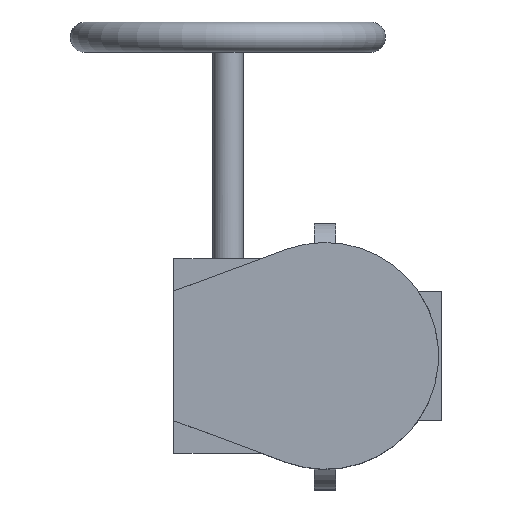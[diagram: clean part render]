
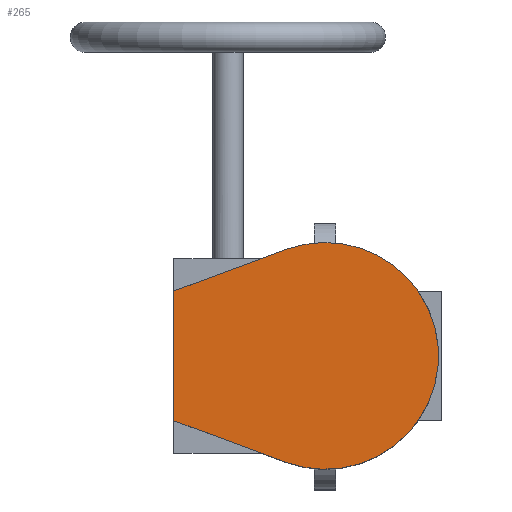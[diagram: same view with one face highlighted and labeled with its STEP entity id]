
A CAD part, top view. The second image highlights one B-rep face of the part: STEP entity #265.
In plain terms, the highlighted planar face has unit normal (0, 0, 1).
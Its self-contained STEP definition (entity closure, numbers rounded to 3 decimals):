
#265=ADVANCED_FACE('',(#6066),#6068,.T.);
#6066=FACE_BOUND('',#6067,.T.);
#6067=EDGE_LOOP('',(#10660,#10661,#10662,#10663));
#6068=PLANE('',#6069);
#6069=AXIS2_PLACEMENT_3D('',#6070,#6071,#6072);
#6070=CARTESIAN_POINT('',(0.,0.,205.));
#6071=DIRECTION('',(0.,0.,1.));
#6072=DIRECTION('',(0.,1.,0.));
#10660=ORIENTED_EDGE('',*,*,#14288,.T.);
#10661=ORIENTED_EDGE('',*,*,#14284,.T.);
#10662=ORIENTED_EDGE('',*,*,#14277,.T.);
#10663=ORIENTED_EDGE('',*,*,#14272,.T.);
#14272=EDGE_CURVE('',#16169,#16167,#16170,.T.);
#14277=EDGE_CURVE('',#16177,#16169,#16178,.T.);
#14284=EDGE_CURVE('',#16190,#16177,#16191,.T.);
#14288=EDGE_CURVE('',#16167,#16190,#16196,.T.);
#16167=VERTEX_POINT('',#19325);
#16169=VERTEX_POINT('',#19329);
#16170=LINE('',#19330,#19331);
#16177=VERTEX_POINT('',#19347);
#16178=LINE('',#19348,#19349);
#16190=VERTEX_POINT('',#19374);
#16191=LINE('',#19375,#19376);
#16196=CIRCLE('',#19388,52.5);
#19325=CARTESIAN_POINT('',(-18.284,-49.213,205.));
#19329=CARTESIAN_POINT('',(-70.,-30.,205.));
#19330=CARTESIAN_POINT('',(-70.,-30.,205.));
#19331=VECTOR('',#19332,1.);
#19332=DIRECTION('',(0.937,-0.348,0.));
#19347=CARTESIAN_POINT('',(-70.,30.,205.));
#19348=CARTESIAN_POINT('',(-70.,30.,205.));
#19349=VECTOR('',#19350,1.);
#19350=DIRECTION('',(0.,-1.,0.));
#19374=CARTESIAN_POINT('',(-18.284,49.213,205.));
#19375=CARTESIAN_POINT('',(-18.284,49.213,205.));
#19376=VECTOR('',#19377,1.);
#19377=DIRECTION('',(-0.937,-0.348,0.));
#19388=AXIS2_PLACEMENT_3D('',#19389,#19390,#19391);
#19389=CARTESIAN_POINT('',(0.,0.,205.));
#19390=DIRECTION('',(0.,0.,1.));
#19391=DIRECTION('',(-0.348,-0.937,0.));
